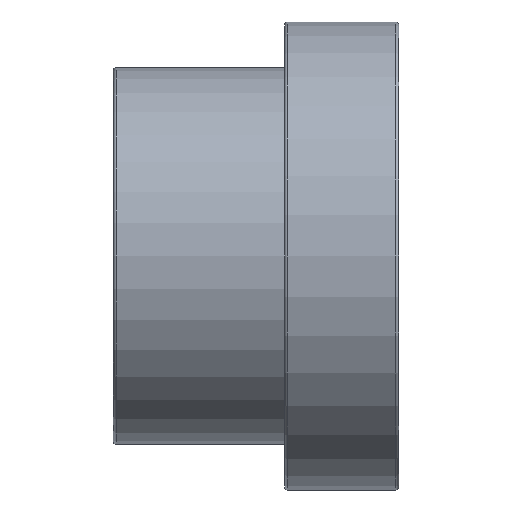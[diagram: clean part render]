
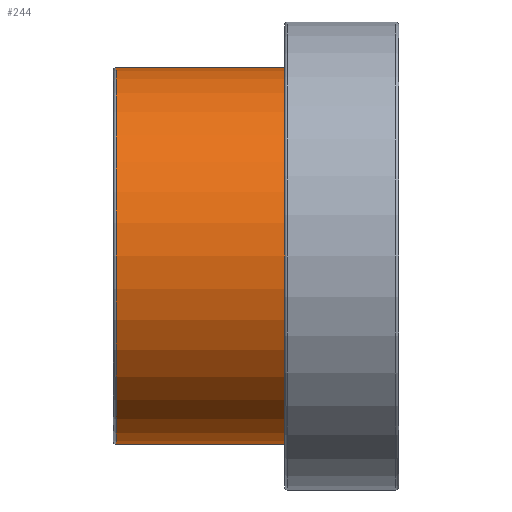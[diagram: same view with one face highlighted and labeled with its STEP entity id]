
A CAD part, front view. The second image highlights one B-rep face of the part: STEP entity #244.
In plain terms, the highlighted cylindrical face has radius 16.5 mm (diameter 33 mm), a full revolution.
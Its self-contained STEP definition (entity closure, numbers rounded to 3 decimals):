
#20=CYLINDRICAL_SURFACE('',#288,16.5);
#46=FACE_BOUND('',#108,.T.);
#67=FACE_OUTER_BOUND('',#107,.T.);
#107=EDGE_LOOP('',(#212));
#108=EDGE_LOOP('',(#213));
#130=CIRCLE('',#285,16.5);
#131=CIRCLE('',#287,16.5);
#151=VERTEX_POINT('',#433);
#152=VERTEX_POINT('',#436);
#172=EDGE_CURVE('',#151,#151,#130,.T.);
#173=EDGE_CURVE('',#152,#152,#131,.T.);
#212=ORIENTED_EDGE('',*,*,#172,.T.);
#213=ORIENTED_EDGE('',*,*,#173,.F.);
#244=ADVANCED_FACE('',(#67,#46),#20,.T.);
#285=AXIS2_PLACEMENT_3D('',#434,#366,#367);
#287=AXIS2_PLACEMENT_3D('',#437,#370,#371);
#288=AXIS2_PLACEMENT_3D('',#438,#372,#373);
#366=DIRECTION('center_axis',(-1.,0.,0.));
#367=DIRECTION('ref_axis',(0.,0.,1.));
#370=DIRECTION('center_axis',(-1.,0.,0.));
#371=DIRECTION('ref_axis',(0.,1.,0.));
#372=DIRECTION('center_axis',(-1.,0.,0.));
#373=DIRECTION('ref_axis',(0.,-1.,0.));
#433=CARTESIAN_POINT('',(15.,-16.5,0.));
#434=CARTESIAN_POINT('Origin',(15.,0.,0.));
#436=CARTESIAN_POINT('',(0.25,-16.5,0.));
#437=CARTESIAN_POINT('Origin',(0.25,0.,0.));
#438=CARTESIAN_POINT('Origin',(7.5,0.,0.));
